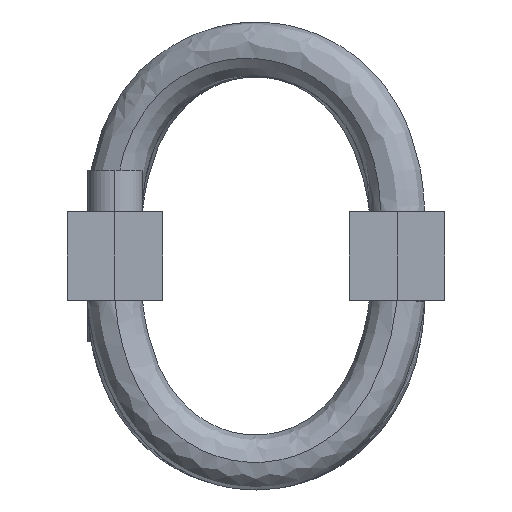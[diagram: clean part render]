
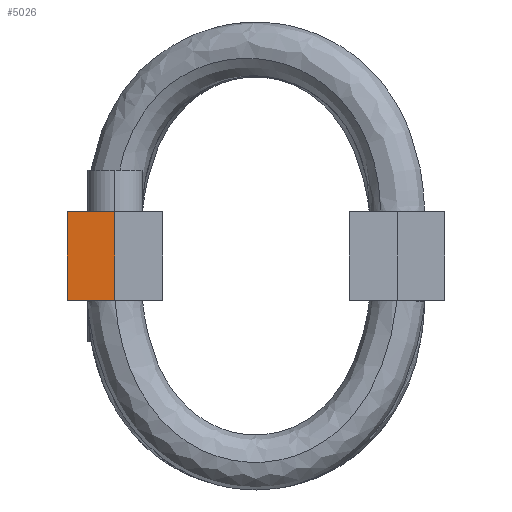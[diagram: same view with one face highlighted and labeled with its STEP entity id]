
A CAD part, left-side view. The second image highlights one B-rep face of the part: STEP entity #5026.
In plain terms, the highlighted planar face has unit normal (-1, 0, 0).
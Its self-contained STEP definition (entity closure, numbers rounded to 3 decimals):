
#1539 = EDGE_CURVE ( 'NONE', #11382, #5191, #33569, .T. ) ;
#2441 = CARTESIAN_POINT ( 'NONE',  ( -133.35, 54.5, -12.7 ) ) ;
#4276 = PLANE ( 'NONE',  #31969 ) ;
#5026 = ADVANCED_FACE ( 'NONE', ( #11132 ), #4276, .T. ) ;
#5191 = VERTEX_POINT ( 'NONE', #30857 ) ;
#5352 = LINE ( 'NONE', #22125, #19428 ) ;
#5944 = EDGE_CURVE ( 'NONE', #12220, #20188, #5352, .T. ) ;
#6637 = CARTESIAN_POINT ( 'NONE',  ( -133.35, 40.7, -12.7 ) ) ;
#7076 = DIRECTION ( 'NONE',  ( -1., 0., 0. ) ) ;
#7492 = CARTESIAN_POINT ( 'NONE',  ( -133.35, 54.5, -12.7 ) ) ;
#10036 = ORIENTED_EDGE ( 'NONE', *, *, #30107, .F. ) ;
#10181 = EDGE_LOOP ( 'NONE', ( #31327, #11588, #15035, #10036 ) ) ;
#10384 = VECTOR ( 'NONE', #16839, 1000. ) ;
#10916 = DIRECTION ( 'NONE',  ( 0., 0., 1. ) ) ;
#11132 = FACE_OUTER_BOUND ( 'NONE', #10181, .T. ) ;
#11382 = VERTEX_POINT ( 'NONE', #19919 ) ;
#11588 = ORIENTED_EDGE ( 'NONE', *, *, #11863, .F. ) ;
#11863 = EDGE_CURVE ( 'NONE', #20188, #11382, #20821, .T. ) ;
#12026 = DIRECTION ( 'NONE',  ( 0., -1., 0. ) ) ;
#12220 = VERTEX_POINT ( 'NONE', #6637 ) ;
#13393 = VECTOR ( 'NONE', #10916, 1000. ) ;
#15035 = ORIENTED_EDGE ( 'NONE', *, *, #5944, .F. ) ;
#15329 = CARTESIAN_POINT ( 'NONE',  ( -133.35, 47.6, 0. ) ) ;
#16839 = DIRECTION ( 'NONE',  ( 0., 0., -1. ) ) ;
#19428 = VECTOR ( 'NONE', #27809, 1000. ) ;
#19919 = CARTESIAN_POINT ( 'NONE',  ( -133.35, 54.5, 12.7 ) ) ;
#20188 = VERTEX_POINT ( 'NONE', #7492 ) ;
#20369 = CARTESIAN_POINT ( 'NONE',  ( -133.35, 54.5, 12.7 ) ) ;
#20821 = LINE ( 'NONE', #2441, #13393 ) ;
#22125 = CARTESIAN_POINT ( 'NONE',  ( -133.35, 54.5, -12.7 ) ) ;
#22214 = CARTESIAN_POINT ( 'NONE',  ( -133.35, 40.7, -12.7 ) ) ;
#25176 = VECTOR ( 'NONE', #12026, 1000. ) ;
#26770 = DIRECTION ( 'NONE',  ( 0., 0., 1. ) ) ;
#27809 = DIRECTION ( 'NONE',  ( 0., 1., 0. ) ) ;
#30107 = EDGE_CURVE ( 'NONE', #5191, #12220, #32844, .T. ) ;
#30857 = CARTESIAN_POINT ( 'NONE',  ( -133.35, 40.7, 12.7 ) ) ;
#31327 = ORIENTED_EDGE ( 'NONE', *, *, #1539, .F. ) ;
#31969 = AXIS2_PLACEMENT_3D ( 'NONE', #15329, #7076, #26770 ) ;
#32844 = LINE ( 'NONE', #22214, #10384 ) ;
#33569 = LINE ( 'NONE', #20369, #25176 ) ;
